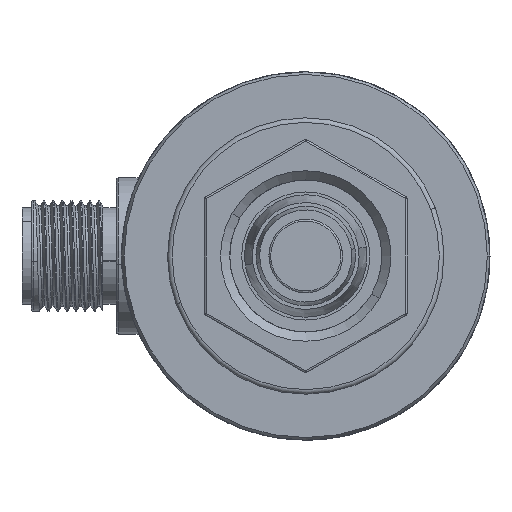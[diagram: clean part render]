
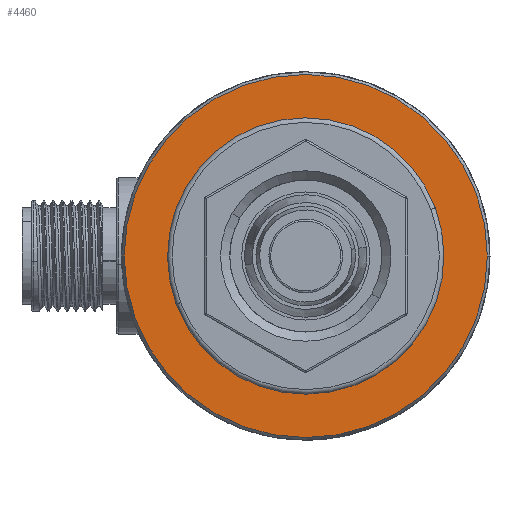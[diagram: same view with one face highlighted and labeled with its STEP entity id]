
A CAD part, left-side view. The second image highlights one B-rep face of the part: STEP entity #4460.
In plain terms, the highlighted planar face has unit normal (-1, 0, 0).
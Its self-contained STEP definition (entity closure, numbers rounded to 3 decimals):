
#453 = ORIENTED_EDGE ( 'NONE', *, *, #58839, .F. ) ;
#3128 = DIRECTION ( 'NONE',  ( 1., 0., 0. ) ) ;
#3455 = FACE_BOUND ( 'NONE', #33697, .T. ) ;
#4460 = ADVANCED_FACE ( 'NONE', ( #3455, #54067 ), #63239, .F. ) ;
#4546 = EDGE_CURVE ( 'NONE', #13548, #30427, #14279, .T. ) ;
#5708 = DIRECTION ( 'NONE',  ( -1., 0., 0. ) ) ;
#5921 = EDGE_LOOP ( 'NONE', ( #30260, #62290 ) ) ;
#8665 = DIRECTION ( 'NONE',  ( 0., 0., -1. ) ) ;
#10338 = CARTESIAN_POINT ( 'NONE',  ( 0., 0., 0. ) ) ;
#11883 = DIRECTION ( 'NONE',  ( 0., 0., 1. ) ) ;
#13548 = VERTEX_POINT ( 'NONE', #20657 ) ;
#14279 = CIRCLE ( 'NONE', #16368, 19.711 ) ;
#16368 = AXIS2_PLACEMENT_3D ( 'NONE', #60281, #5708, #50129 ) ;
#19653 = VERTEX_POINT ( 'NONE', #53851 ) ;
#20657 = CARTESIAN_POINT ( 'NONE',  ( 0., 0., 19.711 ) ) ;
#21000 = CARTESIAN_POINT ( 'NONE',  ( 0., 0., 14.289 ) ) ;
#21915 = AXIS2_PLACEMENT_3D ( 'NONE', #52350, #31156, #11883 ) ;
#26021 = EDGE_CURVE ( 'NONE', #30427, #13548, #50089, .T. ) ;
#29768 = CIRCLE ( 'NONE', #44361, 14.289 ) ;
#30254 = DIRECTION ( 'NONE',  ( -1., 0., 0. ) ) ;
#30260 = ORIENTED_EDGE ( 'NONE', *, *, #26021, .T. ) ;
#30427 = VERTEX_POINT ( 'NONE', #52527 ) ;
#31156 = DIRECTION ( 'NONE',  ( -1., 0., 0. ) ) ;
#33697 = EDGE_LOOP ( 'NONE', ( #453, #51323 ) ) ;
#44361 = AXIS2_PLACEMENT_3D ( 'NONE', #53571, #53900, #59456 ) ;
#44532 = AXIS2_PLACEMENT_3D ( 'NONE', #63557, #3128, #8665 ) ;
#46005 = VERTEX_POINT ( 'NONE', #21000 ) ;
#48891 = EDGE_CURVE ( 'NONE', #19653, #46005, #29768, .T. ) ;
#50089 = CIRCLE ( 'NONE', #21915, 19.711 ) ;
#50129 = DIRECTION ( 'NONE',  ( 0., 0., 1. ) ) ;
#51323 = ORIENTED_EDGE ( 'NONE', *, *, #48891, .F. ) ;
#52350 = CARTESIAN_POINT ( 'NONE',  ( 0., 0., 0. ) ) ;
#52527 = CARTESIAN_POINT ( 'NONE',  ( 0., 0., -19.711 ) ) ;
#52996 = AXIS2_PLACEMENT_3D ( 'NONE', #10338, #30254, #55415 ) ;
#53571 = CARTESIAN_POINT ( 'NONE',  ( 0., 0., 0. ) ) ;
#53851 = CARTESIAN_POINT ( 'NONE',  ( 0., 0., -14.289 ) ) ;
#53900 = DIRECTION ( 'NONE',  ( -1., 0., 0. ) ) ;
#54067 = FACE_OUTER_BOUND ( 'NONE', #5921, .T. ) ;
#55415 = DIRECTION ( 'NONE',  ( 0., 0., 1. ) ) ;
#56145 = CIRCLE ( 'NONE', #52996, 14.289 ) ;
#58839 = EDGE_CURVE ( 'NONE', #46005, #19653, #56145, .T. ) ;
#59456 = DIRECTION ( 'NONE',  ( 0., 0., 1. ) ) ;
#60281 = CARTESIAN_POINT ( 'NONE',  ( 0., 0., 0. ) ) ;
#62290 = ORIENTED_EDGE ( 'NONE', *, *, #4546, .T. ) ;
#63239 = PLANE ( 'NONE',  #44532 ) ;
#63557 = CARTESIAN_POINT ( 'NONE',  ( 0., 19.711, 0. ) ) ;
